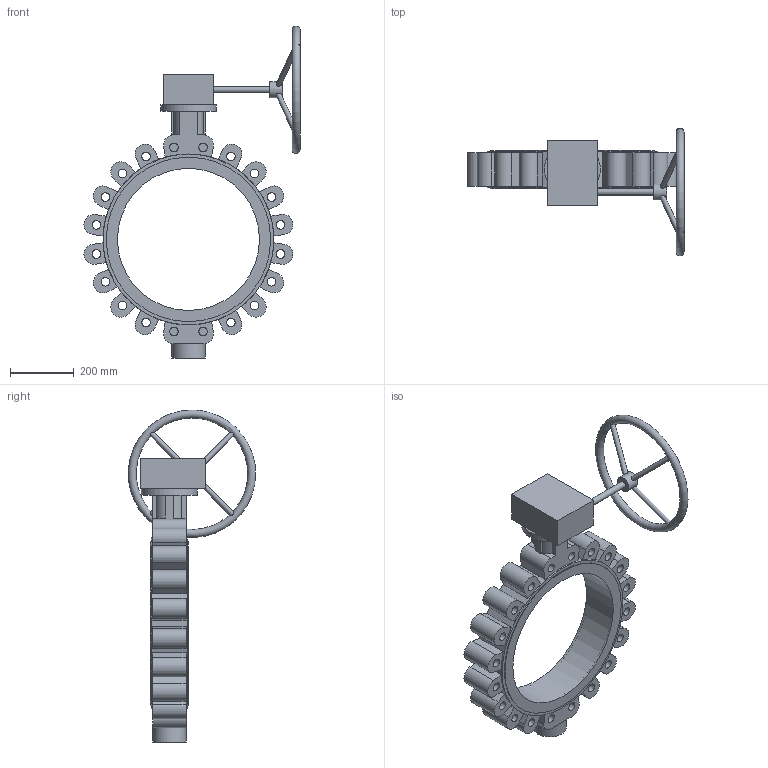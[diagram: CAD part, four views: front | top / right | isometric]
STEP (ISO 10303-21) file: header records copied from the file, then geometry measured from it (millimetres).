
FILE_DESCRIPTION (( 'STEP AP203' ), '1' );
FILE_NAME ('2502 LT型中线衬胶带销 手动头蝶阀 DN450 PN16 CD0309126.STEP', '2026-03-31T05:28:45', ( '' ), ( '' ), 'SwSTEP 2.0', 'SolidWorks 2018', '' );
FILE_SCHEMA (( 'CONFIG_CONTROL_DESIGN' ));
Length unit declared in the file: millimetre
Products named in the file (4): GALA-D450-01LC16-00; 00. G100 手动头装配图 YN 简化; 2502 LT型中线衬胶带销 手动头蝶阀 DN450 PN16 CD0309126; GALA-D450-04AC-00
Assembly tree (3 placements, depth 2):
  2502 LT型中线衬胶带销 手动头蝶阀 DN450 PN16 CD0309126
    GALA-D450-04AC-00
    GALA-D450-01LC16-00
    00. G100 手动头装配图 YN 简化
Bounding box: 677.79 x 399.5 x 1041.48 mm (x, y, z)
Volume: 25378459.4 mm3; surface area: 1890580.3 mm2
Topology: 3 solids, 4 shells, 181 faces, 438 edges, 293 vertices
Faces by surface type: plane 116, cylinder 63, torus 2
Full cylindrical faces by diameter (mm): 16 x4, 20 x1, 27 x24, 43.644 x1, 50 x1, 105 x1, 175 x1, 445.811 x1, 451 x1, 516 x3, 536 x1
Entity records: 10045 total; most frequent: CARTESIAN_POINT 5420, DIRECTION 906, ORIENTED_EDGE 762, EDGE_CURVE 381, AXIS2_PLACEMENT_3D 348, EDGE_LOOP 294, VERTEX_POINT 279, FACE_OUTER_BOUND 218
